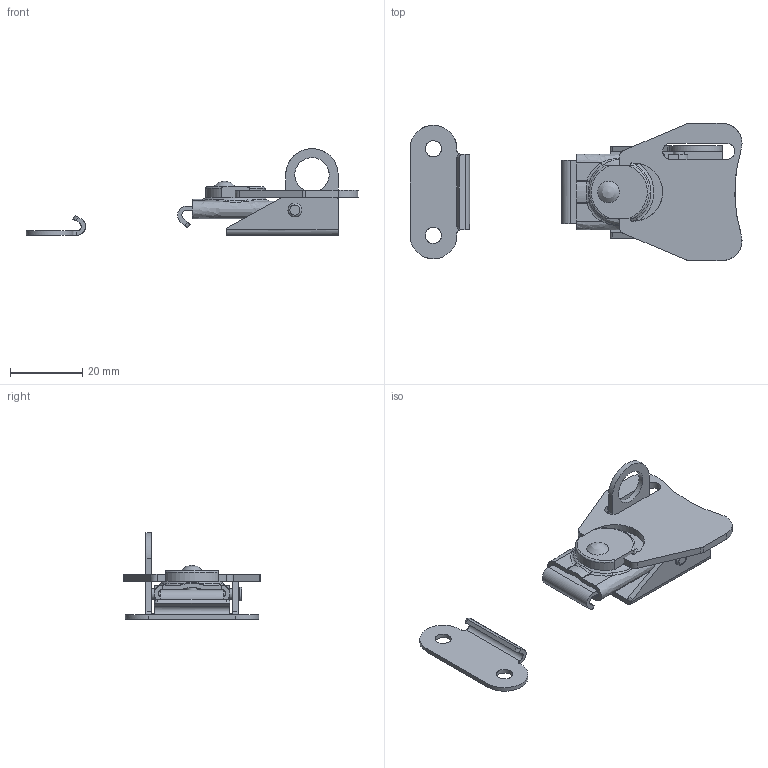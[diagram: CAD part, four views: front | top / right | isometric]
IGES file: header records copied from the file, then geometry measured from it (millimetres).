
Global section: file name: DR_C-M26; native system: Autodesk Inventor 2015; preprocessor: unknown; author: Administrator; date: 20170904.151729; units: millimetre
Bounding box: 92 x 38 x 23.99 mm (x, y, z)
Volume: 7206.3 mm3; surface area: 10855.9 mm2
Topology: 6 solids, 6 shells, 163 faces, 416 edges, 266 vertices
Faces by surface type: bspline 163
